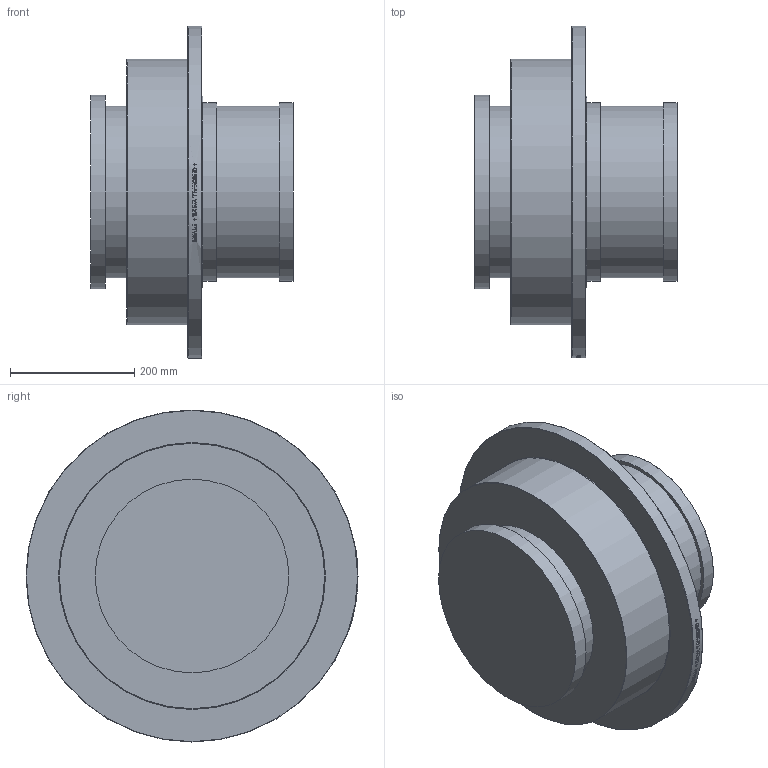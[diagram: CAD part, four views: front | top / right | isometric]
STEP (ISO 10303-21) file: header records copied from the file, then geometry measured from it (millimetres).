
FILE_DESCRIPTION( ( 'Unknown' ), '1' );
FILE_NAME( 'Y:/ENGR/3D Solid Edge Models/F1/F1 STEP/F1VBR.stp', 'Unknown', ( 'Unknown' ), ( 'Unknown' ), 'PSStep 14.0', 'Unknown', ' ' );
FILE_SCHEMA( ( 'AUTOMOTIVE_DESIGN { 1 0 10303 214 1 1 1 1 }' ) );
Length unit declared in the file: millimetre
Products named in the file (1): 1
Bounding box: 326.09 x 533.4 x 533.4 mm (x, y, z)
Volume: 31993625.8 mm3; surface area: 838025 mm2
Topology: 1 solids, 1 shells, 233 faces, 582 edges, 386 vertices
Faces by surface type: plane 136, bspline 55, cylinder 35, torus 4, cone 3
Full cylindrical faces by diameter (mm): 275.844 x2, 287.147 x2, 311.15 x1, 427.203 x1, 533.4 x1
Entity records: 12788 total; most frequent: CARTESIAN_POINT 6613, ORIENTED_EDGE 1136, EDGE_CURVE 568, B_SPLINE_CURVE_WITH_KNOTS 546, DIRECTION 402, VERTEX_POINT 386, EDGE_LOOP 282, FACE_OUTER_BOUND 244
